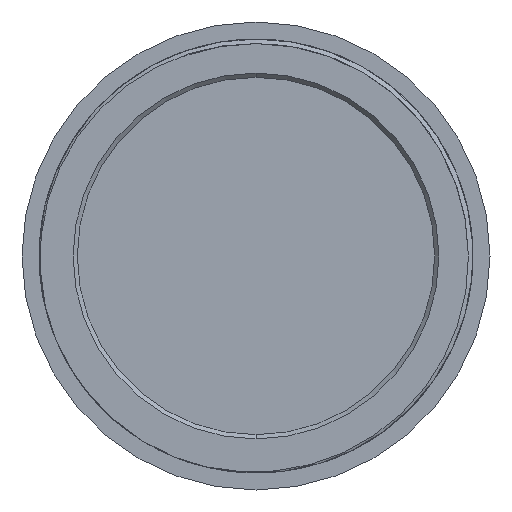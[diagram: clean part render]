
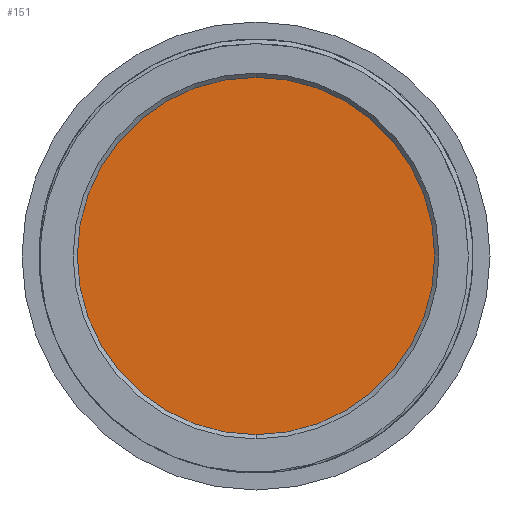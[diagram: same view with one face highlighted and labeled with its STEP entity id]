
A CAD part, front view. The second image highlights one B-rep face of the part: STEP entity #151.
In plain terms, the highlighted planar face has unit normal (0, -1, 0).
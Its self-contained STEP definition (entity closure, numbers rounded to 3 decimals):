
#26 = AXIS2_PLACEMENT_3D ( 'NONE', #1944, #2782, #563 ) ;
#82 = PLANE ( 'NONE',  #26 ) ;
#101 = DIRECTION ( 'NONE',  ( 0., 1., 0. ) ) ;
#151 = ADVANCED_FACE ( 'NONE', ( #1955 ), #82, .F. ) ;
#214 = ORIENTED_EDGE ( 'NONE', *, *, #2382, .F. ) ;
#412 = VERTEX_POINT ( 'NONE', #938 ) ;
#463 = EDGE_CURVE ( 'NONE', #2013, #412, #2125, .T. ) ;
#563 = DIRECTION ( 'NONE',  ( 0., 0., 1. ) ) ;
#611 = CARTESIAN_POINT ( 'NONE',  ( 0., 2.3, 0. ) ) ;
#829 = CARTESIAN_POINT ( 'NONE',  ( 0., 2.3, 0. ) ) ;
#938 = CARTESIAN_POINT ( 'NONE',  ( 0., 2.3, -11.25 ) ) ;
#1024 = DIRECTION ( 'NONE',  ( 0., 0., 1. ) ) ;
#1374 = AXIS2_PLACEMENT_3D ( 'NONE', #829, #101, #1024 ) ;
#1500 = DIRECTION ( 'NONE',  ( 0., 0., 1. ) ) ;
#1774 = DIRECTION ( 'NONE',  ( 0., 1., 0. ) ) ;
#1775 = EDGE_LOOP ( 'NONE', ( #214, #2140 ) ) ;
#1802 = CIRCLE ( 'NONE', #1374, 11.25 ) ;
#1849 = AXIS2_PLACEMENT_3D ( 'NONE', #611, #1774, #1500 ) ;
#1944 = CARTESIAN_POINT ( 'NONE',  ( 0., 2.3, 0. ) ) ;
#1955 = FACE_OUTER_BOUND ( 'NONE', #1775, .T. ) ;
#2010 = CARTESIAN_POINT ( 'NONE',  ( 0., 2.3, 11.25 ) ) ;
#2013 = VERTEX_POINT ( 'NONE', #2010 ) ;
#2125 = CIRCLE ( 'NONE', #1849, 11.25 ) ;
#2140 = ORIENTED_EDGE ( 'NONE', *, *, #463, .F. ) ;
#2382 = EDGE_CURVE ( 'NONE', #412, #2013, #1802, .T. ) ;
#2782 = DIRECTION ( 'NONE',  ( 0., 1., 0. ) ) ;
